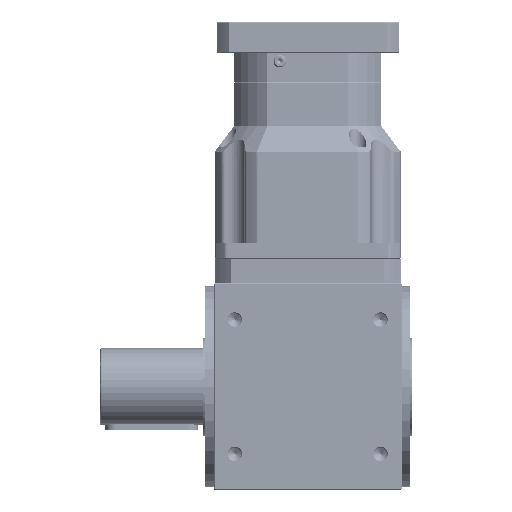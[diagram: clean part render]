
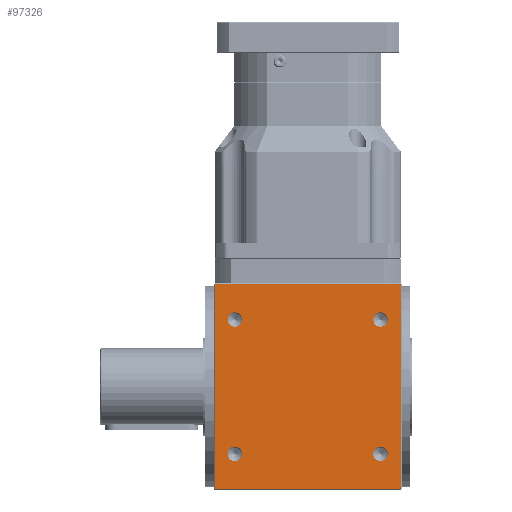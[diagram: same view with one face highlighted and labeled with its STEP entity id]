
A CAD part, front view. The second image highlights one B-rep face of the part: STEP entity #97326.
In plain terms, the highlighted planar face has unit normal (0, -1, 0) as drawn and (0, 0, -1) by its records, which use the part's own axes.
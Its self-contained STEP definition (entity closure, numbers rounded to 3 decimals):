
#2673 = CARTESIAN_POINT ( 'NONE',  ( -70.5, 65., -100. ) ) ;
#3436 = ORIENTED_EDGE ( 'NONE', *, *, #29792, .F. ) ;
#5319 = CARTESIAN_POINT ( 'NONE',  ( 70.5, -65., -100. ) ) ;
#12833 = CARTESIAN_POINT ( 'NONE',  ( -90., 99., -100. ) ) ;
#14037 = DIRECTION ( 'NONE',  ( -1., 0., 0. ) ) ;
#16684 = DIRECTION ( 'NONE',  ( 0., 1., 0. ) ) ;
#17301 = EDGE_CURVE ( 'NONE', #27950, #144407, #119865, .T. ) ;
#18273 = CARTESIAN_POINT ( 'NONE',  ( 91., -99., -100. ) ) ;
#20047 = CARTESIAN_POINT ( 'NONE',  ( -90., 100., -100. ) ) ;
#23710 = FACE_BOUND ( 'NONE', #28366, .T. ) ;
#26376 = CARTESIAN_POINT ( 'NONE',  ( -70.5, 65., -100. ) ) ;
#26666 = ORIENTED_EDGE ( 'NONE', *, *, #123214, .F. ) ;
#27789 = VECTOR ( 'NONE', #109793, 1000. ) ;
#27950 = VERTEX_POINT ( 'NONE', #113626 ) ;
#28366 = EDGE_LOOP ( 'NONE', ( #26666, #114598 ) ) ;
#28845 = AXIS2_PLACEMENT_3D ( 'NONE', #43212, #121623, #54502 ) ;
#29792 = EDGE_CURVE ( 'NONE', #50234, #117222, #119802, .T. ) ;
#30673 = ORIENTED_EDGE ( 'NONE', *, *, #51728, .F. ) ;
#34264 = CIRCLE ( 'NONE', #100134, 7. ) ;
#34402 = VERTEX_POINT ( 'NONE', #139212 ) ;
#37468 = LINE ( 'NONE', #18273, #93707 ) ;
#37726 = DIRECTION ( 'NONE',  ( -1., 0., 0. ) ) ;
#40109 = VECTOR ( 'NONE', #71534, 1000. ) ;
#40150 = CARTESIAN_POINT ( 'NONE',  ( 91., 100., -100. ) ) ;
#42194 = CARTESIAN_POINT ( 'NONE',  ( -70.5, -65., -100. ) ) ;
#43212 = CARTESIAN_POINT ( 'NONE',  ( 70.5, -65., -100. ) ) ;
#43548 = CARTESIAN_POINT ( 'NONE',  ( 90., 100., -100. ) ) ;
#43788 = ORIENTED_EDGE ( 'NONE', *, *, #102005, .F. ) ;
#45917 = AXIS2_PLACEMENT_3D ( 'NONE', #2673, #81363, #14037 ) ;
#46949 = AXIS2_PLACEMENT_3D ( 'NONE', #26376, #104973, #37726 ) ;
#47037 = CARTESIAN_POINT ( 'NONE',  ( -70.5, -65., -100. ) ) ;
#47426 = VERTEX_POINT ( 'NONE', #98565 ) ;
#48900 = CARTESIAN_POINT ( 'NONE',  ( 91., 99., -100. ) ) ;
#49108 = DIRECTION ( 'NONE',  ( 0., 0., -1. ) ) ;
#49286 = CARTESIAN_POINT ( 'NONE',  ( 70.5, 65., -100. ) ) ;
#49912 = CARTESIAN_POINT ( 'NONE',  ( 77.5, 65., -100. ) ) ;
#50234 = VERTEX_POINT ( 'NONE', #83578 ) ;
#50380 = EDGE_CURVE ( 'NONE', #144407, #27950, #136644, .T. ) ;
#51053 = EDGE_LOOP ( 'NONE', ( #90408, #43788 ) ) ;
#51392 = DIRECTION ( 'NONE',  ( 0., -1., 0. ) ) ;
#51550 = VERTEX_POINT ( 'NONE', #12833 ) ;
#51728 = EDGE_CURVE ( 'NONE', #117222, #50234, #72649, .T. ) ;
#53501 = DIRECTION ( 'NONE',  ( 0., 1., 0. ) ) ;
#54411 = DIRECTION ( 'NONE',  ( 0., -1., 0. ) ) ;
#54502 = DIRECTION ( 'NONE',  ( 0., 1., 0. ) ) ;
#58410 = DIRECTION ( 'NONE',  ( 0., 1., 0. ) ) ;
#59271 = EDGE_CURVE ( 'NONE', #34402, #97406, #37468, .T. ) ;
#59962 = VECTOR ( 'NONE', #54411, 1000. ) ;
#60619 = DIRECTION ( 'NONE',  ( -1., 0., 0. ) ) ;
#63663 = ORIENTED_EDGE ( 'NONE', *, *, #17301, .F. ) ;
#63793 = AXIS2_PLACEMENT_3D ( 'NONE', #42194, #120599, #53501 ) ;
#70669 = EDGE_LOOP ( 'NONE', ( #3436, #30673 ) ) ;
#71534 = DIRECTION ( 'NONE',  ( -1., 0., 0. ) ) ;
#72649 = CIRCLE ( 'NONE', #86596, 7. ) ;
#74790 = CIRCLE ( 'NONE', #45917, 7. ) ;
#75148 = ORIENTED_EDGE ( 'NONE', *, *, #119421, .F. ) ;
#76312 = AXIS2_PLACEMENT_3D ( 'NONE', #40150, #118566, #51392 ) ;
#79989 = FACE_BOUND ( 'NONE', #114107, .T. ) ;
#81363 = DIRECTION ( 'NONE',  ( 0., 0., -1. ) ) ;
#83531 = FACE_OUTER_BOUND ( 'NONE', #138783, .T. ) ;
#83578 = CARTESIAN_POINT ( 'NONE',  ( 70.5, -58., -100. ) ) ;
#84015 = DIRECTION ( 'NONE',  ( 0., 0., -1. ) ) ;
#84435 = VERTEX_POINT ( 'NONE', #88793 ) ;
#86541 = DIRECTION ( 'NONE',  ( 1., 0., 0. ) ) ;
#86596 = AXIS2_PLACEMENT_3D ( 'NONE', #5319, #84015, #16684 ) ;
#87004 = AXIS2_PLACEMENT_3D ( 'NONE', #116302, #49108, #127503 ) ;
#87475 = VERTEX_POINT ( 'NONE', #117483 ) ;
#88793 = CARTESIAN_POINT ( 'NONE',  ( 63.5, 65., -100. ) ) ;
#90408 = ORIENTED_EDGE ( 'NONE', *, *, #138974, .F. ) ;
#91716 = EDGE_CURVE ( 'NONE', #97406, #133383, #143357, .T. ) ;
#92654 = CARTESIAN_POINT ( 'NONE',  ( 90., 99., -100. ) ) ;
#93707 = VECTOR ( 'NONE', #86541, 1000. ) ;
#93870 = AXIS2_PLACEMENT_3D ( 'NONE', #47037, #125477, #58410 ) ;
#96083 = EDGE_CURVE ( 'NONE', #133383, #51550, #99835, .T. ) ;
#97326 = ADVANCED_FACE ( 'NONE', ( #83531, #139354, #23710, #109737, #79989 ), #140394, .F. ) ;
#97406 = VERTEX_POINT ( 'NONE', #109702 ) ;
#98565 = CARTESIAN_POINT ( 'NONE',  ( -63.5, 65., -100. ) ) ;
#99835 = LINE ( 'NONE', #48900, #40109 ) ;
#100134 = AXIS2_PLACEMENT_3D ( 'NONE', #49286, #127679, #60619 ) ;
#102005 = EDGE_CURVE ( 'NONE', #47426, #87475, #74790, .T. ) ;
#104973 = DIRECTION ( 'NONE',  ( 0., 0., -1. ) ) ;
#105580 = CARTESIAN_POINT ( 'NONE',  ( -70.5, -72., -100. ) ) ;
#109702 = CARTESIAN_POINT ( 'NONE',  ( 90., -99., -100. ) ) ;
#109737 = FACE_BOUND ( 'NONE', #51053, .T. ) ;
#109793 = DIRECTION ( 'NONE',  ( 0., 1., 0. ) ) ;
#113626 = CARTESIAN_POINT ( 'NONE',  ( -70.5, -58., -100. ) ) ;
#114107 = EDGE_LOOP ( 'NONE', ( #63663, #142351 ) ) ;
#114598 = ORIENTED_EDGE ( 'NONE', *, *, #130641, .F. ) ;
#116302 = CARTESIAN_POINT ( 'NONE',  ( 70.5, 65., -100. ) ) ;
#117222 = VERTEX_POINT ( 'NONE', #130347 ) ;
#117483 = CARTESIAN_POINT ( 'NONE',  ( -77.5, 65., -100. ) ) ;
#118566 = DIRECTION ( 'NONE',  ( 0., 0., 1. ) ) ;
#118818 = ORIENTED_EDGE ( 'NONE', *, *, #96083, .F. ) ;
#119421 = EDGE_CURVE ( 'NONE', #51550, #34402, #119528, .T. ) ;
#119528 = LINE ( 'NONE', #20047, #59962 ) ;
#119802 = CIRCLE ( 'NONE', #28845, 7. ) ;
#119865 = CIRCLE ( 'NONE', #93870, 7. ) ;
#120599 = DIRECTION ( 'NONE',  ( 0., 0., -1. ) ) ;
#121623 = DIRECTION ( 'NONE',  ( 0., 0., -1. ) ) ;
#122966 = ORIENTED_EDGE ( 'NONE', *, *, #91716, .F. ) ;
#123214 = EDGE_CURVE ( 'NONE', #84435, #138190, #34264, .T. ) ;
#125477 = DIRECTION ( 'NONE',  ( 0., 0., -1. ) ) ;
#127503 = DIRECTION ( 'NONE',  ( -1., 0., 0. ) ) ;
#127679 = DIRECTION ( 'NONE',  ( 0., 0., -1. ) ) ;
#130347 = CARTESIAN_POINT ( 'NONE',  ( 70.5, -72., -100. ) ) ;
#130641 = EDGE_CURVE ( 'NONE', #138190, #84435, #138917, .T. ) ;
#133383 = VERTEX_POINT ( 'NONE', #92654 ) ;
#135984 = CIRCLE ( 'NONE', #46949, 7. ) ;
#136644 = CIRCLE ( 'NONE', #63793, 7. ) ;
#138190 = VERTEX_POINT ( 'NONE', #49912 ) ;
#138783 = EDGE_LOOP ( 'NONE', ( #118818, #122966, #145015, #75148 ) ) ;
#138917 = CIRCLE ( 'NONE', #87004, 7. ) ;
#138974 = EDGE_CURVE ( 'NONE', #87475, #47426, #135984, .T. ) ;
#139212 = CARTESIAN_POINT ( 'NONE',  ( -90., -99., -100. ) ) ;
#139354 = FACE_BOUND ( 'NONE', #70669, .T. ) ;
#140394 = PLANE ( 'NONE',  #76312 ) ;
#142351 = ORIENTED_EDGE ( 'NONE', *, *, #50380, .F. ) ;
#143357 = LINE ( 'NONE', #43548, #27789 ) ;
#144407 = VERTEX_POINT ( 'NONE', #105580 ) ;
#145015 = ORIENTED_EDGE ( 'NONE', *, *, #59271, .F. ) ;
